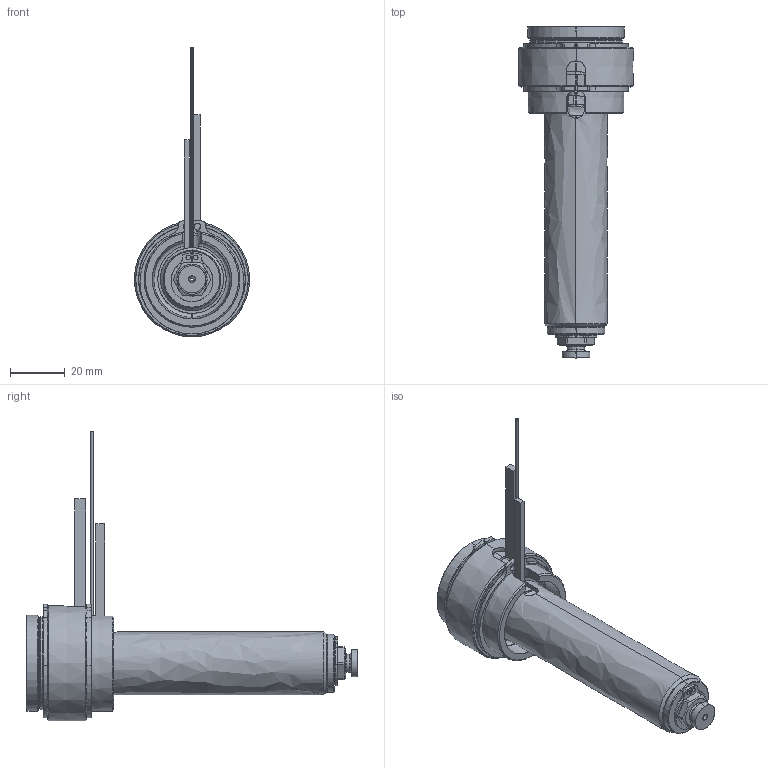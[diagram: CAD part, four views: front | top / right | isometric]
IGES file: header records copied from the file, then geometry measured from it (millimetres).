
Start section: SolidWorks IGES file using analytic representation for surfaces
Global section: file name: C:\Users\luca.EMPAD\Desktop\TEM\UGBE3502-S-A-5 [Ød-1.0 P-0 ØC-6.0].IGS; native system: SolidWorks 2012; preprocessor: SolidWorks 2012; author: luca; date: 120330.135429; units: millimetre
Bounding box: 42 x 121 x 105.6 mm (x, y, z)
Surface area: 28405.1 mm2 (no closed solid volume)
Topology: 0 solids, 0 shells, 186 faces, 3498 edges, 3498 vertices
Faces by surface type: revolution 117, bspline 69
